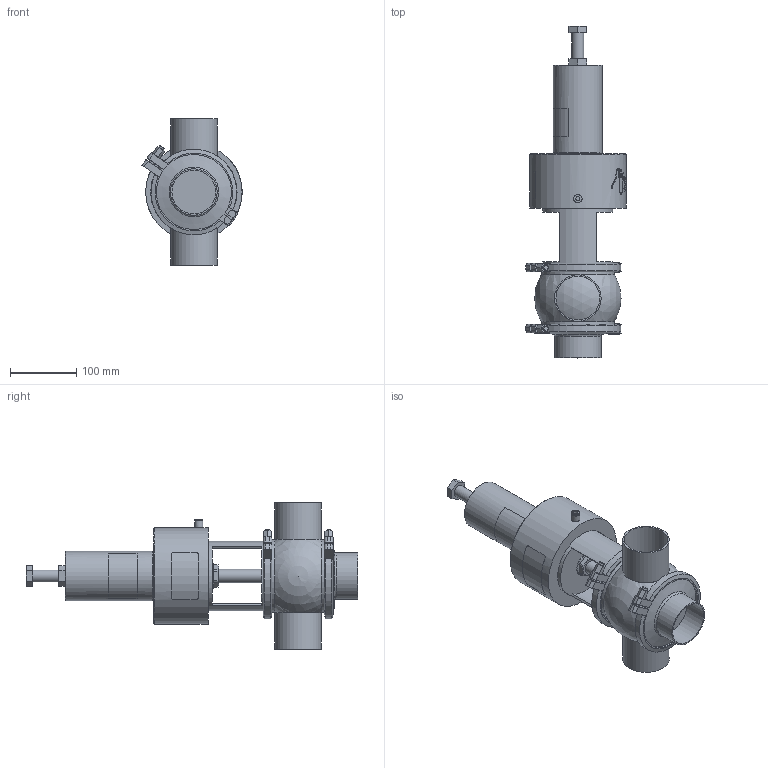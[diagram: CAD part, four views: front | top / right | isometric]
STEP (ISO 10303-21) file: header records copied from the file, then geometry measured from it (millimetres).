
FILE_DESCRIPTION (( 'STEP AP214' ), '1' );
FILE_NAME ('INNOVA J T W DIN 065_10.245.16.0002.STEP', '2024-08-08T08:02:31', ( '' ), ( '' ), 'SwSTEP 2.0', 'SolidWorks 2023', '' );
FILE_SCHEMA (( 'AUTOMOTIVE_DESIGN' ));
Length unit declared in the file: millimetre
Products named in the file (6): 10.247.15.0001_DIN 065; INNOVA J T W DIN 065_10.245.16.0002; 10.240.15.0007_DIN 065; 10.245.15.0001_T3 SE NC_DN 065; 10.240.15.0010_DN 065; 10.240.15.0001_DN 065
Assembly tree (6 placements, depth 2):
  INNOVA J T W DIN 065_10.245.16.0002
    10.240.15.0007_DIN 065
    10.247.15.0001_DIN 065
    10.240.15.0010_DN 065
    10.245.15.0001_T3 SE NC_DN 065
    10.240.15.0001_DN 065  x2
Bounding box: 150.65 x 499.5 x 220 mm (x, y, z)
Volume: 3408613.5 mm3; surface area: 365679.9 mm2
Topology: 6 solids, 6 shells, 383 faces, 1008 edges, 664 vertices
Faces by surface type: plane 193, cylinder 82, bspline 78, cone 25, sphere 3, torus 2
Full cylindrical faces by diameter (mm): 6.15 x1, 8 x4, 10.5 x1, 12.5 x2, 18 x1, 20 x1, 36.5 x1, 66 x3, 70 x3, 74 x1, 105 x1, 109 x2, 121 x4, 145 x1
Entity records: 20070 total; most frequent: CARTESIAN_POINT 11067, ORIENTED_EDGE 1586, DIRECTION 1203, EDGE_CURVE 793, VERTEX_POINT 546, AXIS2_PLACEMENT_3D 449, EDGE_LOOP 397, FACE_OUTER_BOUND 352
